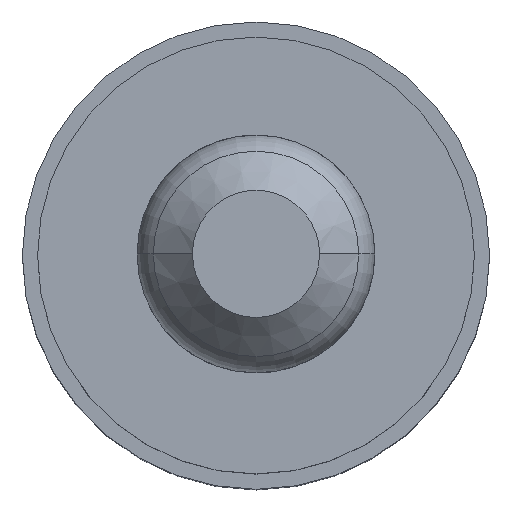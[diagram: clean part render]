
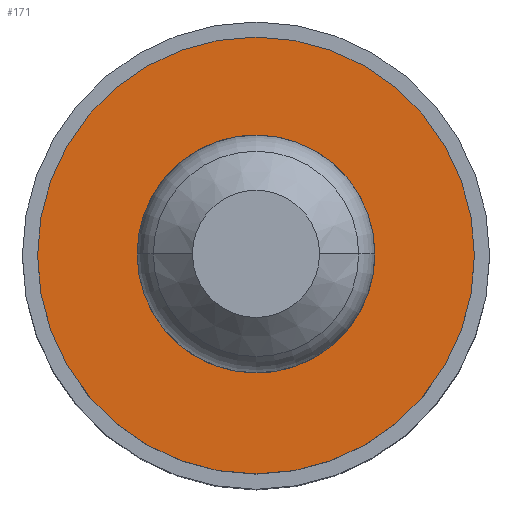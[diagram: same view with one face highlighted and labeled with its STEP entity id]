
A CAD part, top view. The second image highlights one B-rep face of the part: STEP entity #171.
In plain terms, the highlighted planar face has unit normal (0, 0, 1).
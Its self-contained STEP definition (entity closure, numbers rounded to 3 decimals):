
#4 = EDGE_CURVE ( 'NONE', #558, #103, #529, .T. ) ;
#8 = DIRECTION ( 'NONE',  ( 1., 0., 0. ) ) ;
#9 = CIRCLE ( 'NONE', #309, 3.95 ) ;
#13 = DIRECTION ( 'NONE',  ( 0., 0., 1. ) ) ;
#42 = DIRECTION ( 'NONE',  ( 0., 0., 1. ) ) ;
#44 = DIRECTION ( 'NONE',  ( 0., 0., 1. ) ) ;
#45 = AXIS2_PLACEMENT_3D ( 'NONE', #362, #142, #449 ) ;
#71 = VERTEX_POINT ( 'NONE', #532 ) ;
#80 = CARTESIAN_POINT ( 'NONE',  ( 0., 0., 11. ) ) ;
#103 = VERTEX_POINT ( 'NONE', #385 ) ;
#134 = ORIENTED_EDGE ( 'NONE', *, *, #486, .T. ) ;
#142 = DIRECTION ( 'NONE',  ( 0., 0., 1. ) ) ;
#148 = ORIENTED_EDGE ( 'NONE', *, *, #398, .F. ) ;
#164 = CIRCLE ( 'NONE', #45, 1.25 ) ;
#171 = ADVANCED_FACE ( 'NONE', ( #375, #524 ), #235, .T. ) ;
#210 = EDGE_LOOP ( 'NONE', ( #355, #148 ) ) ;
#213 = AXIS2_PLACEMENT_3D ( 'NONE', #492, #44, #589 ) ;
#214 = DIRECTION ( 'NONE',  ( 0., 0., 1. ) ) ;
#235 = PLANE ( 'NONE',  #213 ) ;
#264 = VERTEX_POINT ( 'NONE', #426 ) ;
#297 = CARTESIAN_POINT ( 'NONE',  ( 0., 0., 11. ) ) ;
#309 = AXIS2_PLACEMENT_3D ( 'NONE', #334, #42, #378 ) ;
#334 = CARTESIAN_POINT ( 'NONE',  ( 0., 0., 11. ) ) ;
#345 = DIRECTION ( 'NONE',  ( 1., 0., 0. ) ) ;
#351 = AXIS2_PLACEMENT_3D ( 'NONE', #80, #214, #8 ) ;
#355 = ORIENTED_EDGE ( 'NONE', *, *, #630, .F. ) ;
#362 = CARTESIAN_POINT ( 'NONE',  ( 0., 0., 11. ) ) ;
#375 = FACE_BOUND ( 'NONE', #210, .T. ) ;
#378 = DIRECTION ( 'NONE',  ( 1., 0., 0. ) ) ;
#385 = CARTESIAN_POINT ( 'NONE',  ( 3.95, 0., 11. ) ) ;
#398 = EDGE_CURVE ( 'NONE', #71, #264, #164, .T. ) ;
#421 = ORIENTED_EDGE ( 'NONE', *, *, #4, .T. ) ;
#426 = CARTESIAN_POINT ( 'NONE',  ( -1.25, 0., 11. ) ) ;
#449 = DIRECTION ( 'NONE',  ( 1., 0., 0. ) ) ;
#450 = CIRCLE ( 'NONE', #555, 1.25 ) ;
#456 = EDGE_LOOP ( 'NONE', ( #134, #421 ) ) ;
#486 = EDGE_CURVE ( 'NONE', #103, #558, #9, .T. ) ;
#492 = CARTESIAN_POINT ( 'NONE',  ( 0., 0., 11. ) ) ;
#524 = FACE_OUTER_BOUND ( 'NONE', #456, .T. ) ;
#529 = CIRCLE ( 'NONE', #351, 3.95 ) ;
#532 = CARTESIAN_POINT ( 'NONE',  ( 1.25, 0., 11. ) ) ;
#555 = AXIS2_PLACEMENT_3D ( 'NONE', #297, #13, #345 ) ;
#558 = VERTEX_POINT ( 'NONE', #588 ) ;
#588 = CARTESIAN_POINT ( 'NONE',  ( -3.95, 0., 11. ) ) ;
#589 = DIRECTION ( 'NONE',  ( 1., 0., 0. ) ) ;
#630 = EDGE_CURVE ( 'NONE', #264, #71, #450, .T. ) ;
